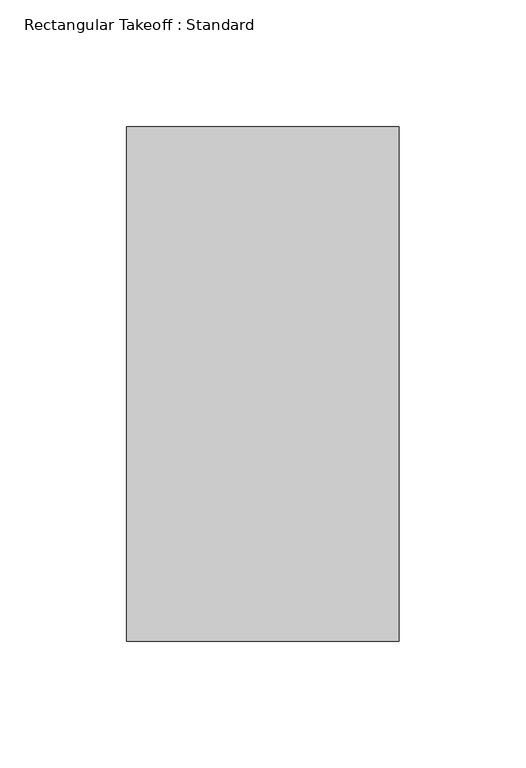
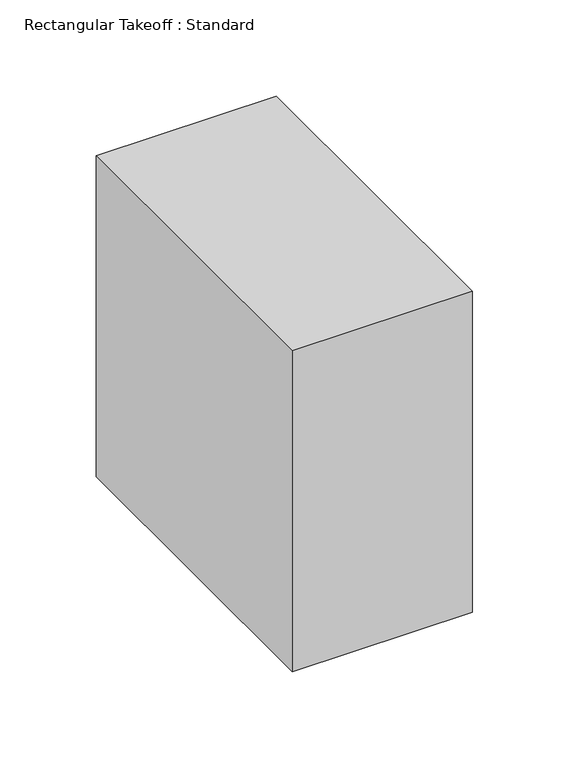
"""IFC4 building model written with IfcOpenShell, lengths in millimetres: duct fitting geometry, Rectangular Takeoff : Standard."""

from ifc_helpers import new_model, si_unit, frame, origin, place, context, project, spatial, polyline, outline, extrude, source, transform, mapped, element, save


def rectangular_takeoff_standard_d07ea574(model_context):
    return source(origin(), model_context, "Body", "SweptSolid", [
        extrude(outline(polyline([(-6.096, -101.6), (-6.096, 101.6), (101.6, 101.6), (101.6, -101.6), (-6.096, -101.6)])), frame((0.0, 0.0, -101.6), z_axis=(0.0, 0.0, 1.0), x_axis=(1.0, 0.0, 0.0)), (0.0, 0.0, 1.0), 203.2),
    ])


if __name__ == "__main__":
    model = new_model("IFC4")
    model_context = context("Model", 3, world=origin())
    ifc_project = project(units=[si_unit("LENGTHUNIT", "METRE", prefix="MILLI")], contexts=[model_context])
    site = spatial("IfcSite", under=ifc_project)
    building = spatial("IfcBuilding", under=site)
    placement = place(None, origin())
    rectangular_takeoff_standard_shape = rectangular_takeoff_standard_d07ea574(model_context)
    element("IfcDuctFitting", 1, ObjectType="Rectangular Takeoff : Standard", at=placement, inside=building, context=model_context, shape_type="MappedRepresentation", body=[
        mapped(rectangular_takeoff_standard_shape, transform((0.0, 0.0, 0.0), x_axis=(1.0, 0.0, 0.0), y_axis=(0.0, 1.0, 0.0), z_axis=(0.0, 0.0, 1.0))),
    ])
    save(model, "model.ifc")
